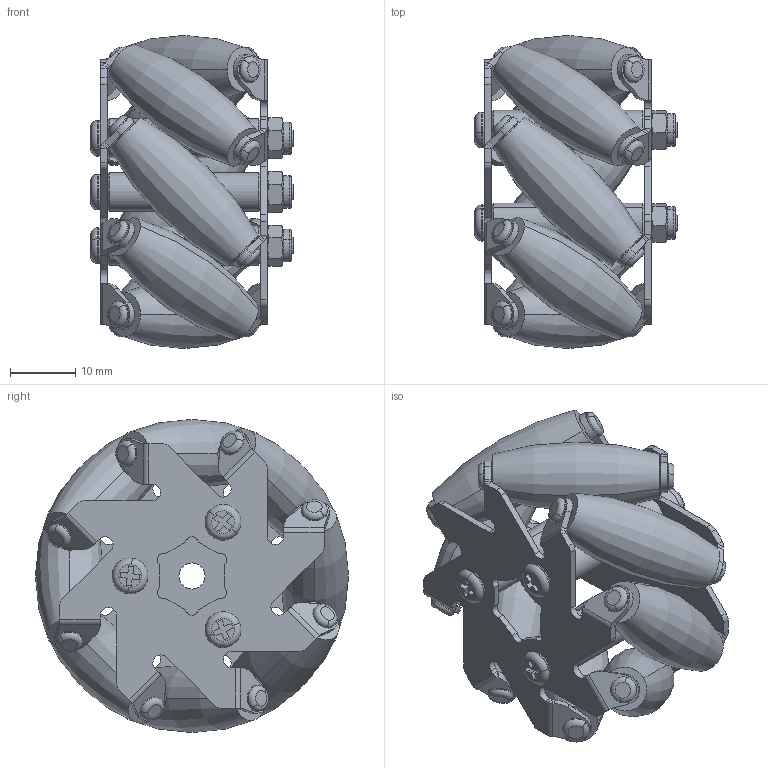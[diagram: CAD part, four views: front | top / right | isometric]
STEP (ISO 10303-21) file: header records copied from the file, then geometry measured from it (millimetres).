
FILE_DESCRIPTION(('Open CASCADE Model'),'2;1');
FILE_NAME('Open CASCADE Shape Model','2026-10-14T20:01:33',('Author'),( 'Open CASCADE'),'Open CASCADE STEP processor 7.7','Open CASCADE 7.7' ,'Unknown');
FILE_SCHEMA(('AUTOMOTIVE_DESIGN { 1 0 10303 214 1 1 1 1 }'));
Length unit declared in the file: millimetre
Products named in the file (37): Open CASCADE STEP translator 7.7 1; Open CASCADE STEP translator 7.7 1.1; Open CASCADE STEP translator 7.7 1.2; Open CASCADE STEP translator 7.7 1.3; Open CASCADE STEP translator 7.7 1.4; Open CASCADE STEP translator 7.7 1.5; Open CASCADE STEP translator 7.7 1.6; Open CASCADE STEP translator 7.7 1.7; Open CASCADE STEP translator 7.7 1.8; Open CASCADE STEP translator 7.7 1.9; Open CASCADE STEP translator 7.7 1.10; Open CASCADE STEP translator 7.7 1.11; Open CASCADE STEP translator 7.7 1.12; Open CASCADE STEP translator 7.7 1.13; Open CASCADE STEP translator 7.7 1.14; Open CASCADE STEP translator 7.7 1.15; Open CASCADE STEP translator 7.7 1.16; Open CASCADE STEP translator 7.7 1.17; Open CASCADE STEP translator 7.7 1.18; Open CASCADE STEP translator 7.7 1.19; Open CASCADE STEP translator 7.7 1.20; Open CASCADE STEP translator 7.7 1.21; Open CASCADE STEP translator 7.7 1.22; Open CASCADE STEP translator 7.7 1.23; Open CASCADE STEP translator 7.7 1.24; Open CASCADE STEP translator 7.7 1.25; Open CASCADE STEP translator 7.7 1.26; Open CASCADE STEP translator 7.7 1.27; Open CASCADE STEP translator 7.7 1.28; Open CASCADE STEP translator 7.7 1.29; Open CASCADE STEP translator 7.7 1.30; Open CASCADE STEP translator 7.7 1.31; Open CASCADE STEP translator 7.7 1.32; Open CASCADE STEP translator 7.7 1.33; Open CASCADE STEP translator 7.7 1.34; Open CASCADE STEP translator 7.7 1.35; Open CASCADE STEP translator 7.7 1.36
Assembly tree (36 placements, depth 2):
  Open CASCADE STEP translator 7.7 1
    Open CASCADE STEP translator 7.7 1.1
    Open CASCADE STEP translator 7.7 1.2
    Open CASCADE STEP translator 7.7 1.3
    Open CASCADE STEP translator 7.7 1.4
    Open CASCADE STEP translator 7.7 1.5
    Open CASCADE STEP translator 7.7 1.6
    Open CASCADE STEP translator 7.7 1.7
    Open CASCADE STEP translator 7.7 1.8
    Open CASCADE STEP translator 7.7 1.9
    Open CASCADE STEP translator 7.7 1.10
    Open CASCADE STEP translator 7.7 1.11
    Open CASCADE STEP translator 7.7 1.12
    Open CASCADE STEP translator 7.7 1.13
    Open CASCADE STEP translator 7.7 1.14
    Open CASCADE STEP translator 7.7 1.15
    Open CASCADE STEP translator 7.7 1.16
    Open CASCADE STEP translator 7.7 1.17
    Open CASCADE STEP translator 7.7 1.18
    Open CASCADE STEP translator 7.7 1.19
    Open CASCADE STEP translator 7.7 1.20
    Open CASCADE STEP translator 7.7 1.21
    Open CASCADE STEP translator 7.7 1.22
    Open CASCADE STEP translator 7.7 1.23
    Open CASCADE STEP translator 7.7 1.24
    Open CASCADE STEP translator 7.7 1.25
    Open CASCADE STEP translator 7.7 1.26
    Open CASCADE STEP translator 7.7 1.27
    Open CASCADE STEP translator 7.7 1.28
    Open CASCADE STEP translator 7.7 1.29
    Open CASCADE STEP translator 7.7 1.30
    Open CASCADE STEP translator 7.7 1.31
    Open CASCADE STEP translator 7.7 1.32
    Open CASCADE STEP translator 7.7 1.33
    Open CASCADE STEP translator 7.7 1.34
    Open CASCADE STEP translator 7.7 1.35
    Open CASCADE STEP translator 7.7 1.36
Bounding box: 31 x 47.84 x 47.84 mm (x, y, z)
Volume: 17547.1 mm3; surface area: 19948.5 mm2
Topology: 36 solids, 36 shells, 801 faces, 1803 edges, 1118 vertices
Faces by surface type: plane 352, cylinder 331, cone 52, torus 50, revolution 16
Entity records: 49398 total; most frequent: CARTESIAN_POINT 11881, DIRECTION 7327, LINE 3791, VECTOR 3791, ORIENTED_EDGE 3606, PCURVE 3606, DEFINITIONAL_REPRESENTATION 3606, EDGE_CURVE 1803
